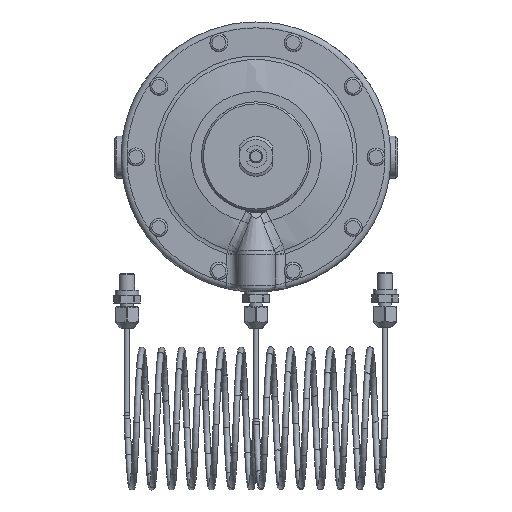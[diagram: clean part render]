
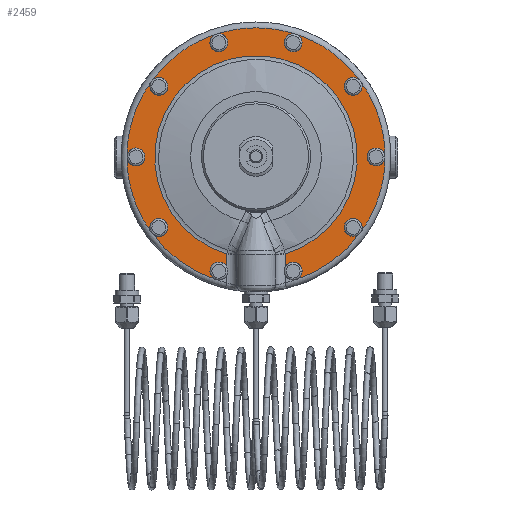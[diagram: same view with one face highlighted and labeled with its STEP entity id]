
A CAD part, top view. The second image highlights one B-rep face of the part: STEP entity #2459.
In plain terms, the highlighted planar face has unit normal (0, 0, 1).
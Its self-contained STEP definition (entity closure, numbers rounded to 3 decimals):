
#757=B_SPLINE_CURVE_WITH_KNOTS('',3,(#25070,#25071,#25072,#25073),.UNSPECIFIED.,
 .F.,.F.,(4,4),(0.,1.),.UNSPECIFIED.);
#758=B_SPLINE_CURVE_WITH_KNOTS('',3,(#25077,#25078,#25079,#25080),.UNSPECIFIED.,
 .F.,.F.,(4,4),(0.,1.),.UNSPECIFIED.);
#952=PLANE('',#12342);
#2459=ADVANCED_FACE('',(#3425),#952,.T.);
#3425=FACE_OUTER_BOUND('',#4050,.T.);
#4050=EDGE_LOOP('',(#6894,#6895,#6896,#6897,#6898,#6899,#6900,#6901,#6902,
#6903,#6904,#6905,#6906,#6907,#6908,#6909,#6910,#6911,#6912,#6913,#6914,
#6915,#6916,#6917));
#5313=CIRCLE('',#12322,65.);
#5314=CIRCLE('',#12323,4.5);
#5315=CIRCLE('',#12324,65.);
#5316=CIRCLE('',#12325,4.5);
#5317=CIRCLE('',#12326,65.);
#5318=CIRCLE('',#12327,4.5);
#5319=CIRCLE('',#12328,65.);
#5320=CIRCLE('',#12329,4.5);
#5321=CIRCLE('',#12330,65.);
#5322=CIRCLE('',#12331,4.5);
#5323=CIRCLE('',#12332,65.);
#5324=CIRCLE('',#12333,4.5);
#5325=CIRCLE('',#12334,51.024);
#5326=CIRCLE('',#12335,4.5);
#5327=CIRCLE('',#12336,65.);
#5328=CIRCLE('',#12337,4.5);
#5329=CIRCLE('',#12338,65.);
#5330=CIRCLE('',#12339,4.5);
#5331=CIRCLE('',#12340,65.);
#5332=CIRCLE('',#12341,4.5);
#6894=ORIENTED_EDGE('',*,*,#10303,.T.);
#6895=ORIENTED_EDGE('',*,*,#10304,.F.);
#6896=ORIENTED_EDGE('',*,*,#10305,.T.);
#6897=ORIENTED_EDGE('',*,*,#10306,.F.);
#6898=ORIENTED_EDGE('',*,*,#10307,.T.);
#6899=ORIENTED_EDGE('',*,*,#10308,.F.);
#6900=ORIENTED_EDGE('',*,*,#10309,.T.);
#6901=ORIENTED_EDGE('',*,*,#10310,.F.);
#6902=ORIENTED_EDGE('',*,*,#10311,.T.);
#6903=ORIENTED_EDGE('',*,*,#10312,.F.);
#6904=ORIENTED_EDGE('',*,*,#10313,.T.);
#6905=ORIENTED_EDGE('',*,*,#10314,.F.);
#6906=ORIENTED_EDGE('',*,*,#10315,.T.);
#6907=ORIENTED_EDGE('',*,*,#10316,.T.);
#6908=ORIENTED_EDGE('',*,*,#10317,.T.);
#6909=ORIENTED_EDGE('',*,*,#10318,.T.);
#6910=ORIENTED_EDGE('',*,*,#10319,.T.);
#6911=ORIENTED_EDGE('',*,*,#10320,.F.);
#6912=ORIENTED_EDGE('',*,*,#10321,.T.);
#6913=ORIENTED_EDGE('',*,*,#10322,.F.);
#6914=ORIENTED_EDGE('',*,*,#10323,.T.);
#6915=ORIENTED_EDGE('',*,*,#10324,.F.);
#6916=ORIENTED_EDGE('',*,*,#10325,.T.);
#6917=ORIENTED_EDGE('',*,*,#10326,.F.);
#9082=VERTEX_POINT('',#25049);
#9083=VERTEX_POINT('',#25050);
#9084=VERTEX_POINT('',#25053);
#9085=VERTEX_POINT('',#25056);
#9086=VERTEX_POINT('',#25059);
#9087=VERTEX_POINT('',#25062);
#9088=VERTEX_POINT('',#25065);
#9089=VERTEX_POINT('',#25067);
#9090=VERTEX_POINT('',#25069);
#9091=VERTEX_POINT('',#25074);
#9092=VERTEX_POINT('',#25076);
#9093=VERTEX_POINT('',#25081);
#9094=VERTEX_POINT('',#25083);
#9095=VERTEX_POINT('',#25085);
#9096=VERTEX_POINT('',#25087);
#9097=VERTEX_POINT('',#25090);
#10303=EDGE_CURVE('',#9082,#9083,#5313,.T.);
#10304=EDGE_CURVE('',#9083,#9083,#5314,.T.);
#10305=EDGE_CURVE('',#9083,#9084,#5315,.T.);
#10306=EDGE_CURVE('',#9084,#9084,#5316,.T.);
#10307=EDGE_CURVE('',#9084,#9085,#5317,.T.);
#10308=EDGE_CURVE('',#9085,#9085,#5318,.T.);
#10309=EDGE_CURVE('',#9085,#9086,#5319,.T.);
#10310=EDGE_CURVE('',#9086,#9086,#5320,.T.);
#10311=EDGE_CURVE('',#9086,#9087,#5321,.T.);
#10312=EDGE_CURVE('',#9087,#9087,#5322,.T.);
#10313=EDGE_CURVE('',#9087,#9088,#5323,.T.);
#10314=EDGE_CURVE('',#9089,#9088,#5324,.T.);
#10315=EDGE_CURVE('',#9089,#9090,#11303,.T.);
#10316=EDGE_CURVE('',#9090,#9091,#757,.T.);
#10317=EDGE_CURVE('',#9091,#9092,#5325,.T.);
#10318=EDGE_CURVE('',#9092,#9093,#758,.T.);
#10319=EDGE_CURVE('',#9093,#9094,#11304,.T.);
#10320=EDGE_CURVE('',#9095,#9094,#5326,.T.);
#10321=EDGE_CURVE('',#9095,#9096,#5327,.T.);
#10322=EDGE_CURVE('',#9096,#9096,#5328,.T.);
#10323=EDGE_CURVE('',#9096,#9097,#5329,.T.);
#10324=EDGE_CURVE('',#9097,#9097,#5330,.T.);
#10325=EDGE_CURVE('',#9097,#9082,#5331,.T.);
#10326=EDGE_CURVE('',#9082,#9082,#5332,.T.);
#11303=LINE('',#25068,#11600);
#11304=LINE('',#25082,#11601);
#11600=VECTOR('',#14629,1.);
#11601=VECTOR('',#14632,1.);
#12322=AXIS2_PLACEMENT_3D('',#25048,#14605,#14606);
#12323=AXIS2_PLACEMENT_3D('',#25051,#14607,#14608);
#12324=AXIS2_PLACEMENT_3D('',#25052,#14609,#14610);
#12325=AXIS2_PLACEMENT_3D('',#25054,#14611,#14612);
#12326=AXIS2_PLACEMENT_3D('',#25055,#14613,#14614);
#12327=AXIS2_PLACEMENT_3D('',#25057,#14615,#14616);
#12328=AXIS2_PLACEMENT_3D('',#25058,#14617,#14618);
#12329=AXIS2_PLACEMENT_3D('',#25060,#14619,#14620);
#12330=AXIS2_PLACEMENT_3D('',#25061,#14621,#14622);
#12331=AXIS2_PLACEMENT_3D('',#25063,#14623,#14624);
#12332=AXIS2_PLACEMENT_3D('',#25064,#14625,#14626);
#12333=AXIS2_PLACEMENT_3D('',#25066,#14627,#14628);
#12334=AXIS2_PLACEMENT_3D('',#25075,#14630,#14631);
#12335=AXIS2_PLACEMENT_3D('',#25084,#14633,#14634);
#12336=AXIS2_PLACEMENT_3D('',#25086,#14635,#14636);
#12337=AXIS2_PLACEMENT_3D('',#25088,#14637,#14638);
#12338=AXIS2_PLACEMENT_3D('',#25089,#14639,#14640);
#12339=AXIS2_PLACEMENT_3D('',#25091,#14641,#14642);
#12340=AXIS2_PLACEMENT_3D('',#25092,#14643,#14644);
#12341=AXIS2_PLACEMENT_3D('',#25093,#14645,#14646);
#12342=AXIS2_PLACEMENT_3D('',#25094,#14647,#14648);
#14605=DIRECTION('',(0.,0.,1.));
#14606=DIRECTION('',(1.,0.,0.));
#14607=DIRECTION('',(0.,0.,1.));
#14608=DIRECTION('',(0.588,0.809,0.));
#14609=DIRECTION('',(0.,0.,1.));
#14610=DIRECTION('',(1.,0.,0.));
#14611=DIRECTION('',(0.,0.,1.));
#14612=DIRECTION('',(0.,1.,0.));
#14613=DIRECTION('',(0.,0.,1.));
#14614=DIRECTION('',(1.,0.,0.));
#14615=DIRECTION('',(0.,0.,1.));
#14616=DIRECTION('',(-0.588,0.809,0.));
#14617=DIRECTION('',(0.,0.,1.));
#14618=DIRECTION('',(1.,0.,0.));
#14619=DIRECTION('',(0.,0.,1.));
#14620=DIRECTION('',(-0.951,0.309,0.));
#14621=DIRECTION('',(0.,0.,1.));
#14622=DIRECTION('',(1.,0.,0.));
#14623=DIRECTION('',(0.,0.,1.));
#14624=DIRECTION('',(-0.951,-0.309,0.));
#14625=DIRECTION('',(0.,0.,1.));
#14626=DIRECTION('',(1.,0.,0.));
#14627=DIRECTION('',(0.,0.,1.));
#14628=DIRECTION('',(-0.588,-0.809,0.));
#14629=DIRECTION('',(0.,1.,0.));
#14630=DIRECTION('',(0.,0.,-1.));
#14631=DIRECTION('',(1.,0.,0.));
#14632=DIRECTION('',(0.,-1.,0.));
#14633=DIRECTION('',(0.,0.,1.));
#14634=DIRECTION('',(0.,-1.,0.));
#14635=DIRECTION('',(0.,0.,1.));
#14636=DIRECTION('',(1.,0.,0.));
#14637=DIRECTION('',(0.,0.,1.));
#14638=DIRECTION('',(0.588,-0.809,0.));
#14639=DIRECTION('',(0.,0.,1.));
#14640=DIRECTION('',(1.,0.,0.));
#14641=DIRECTION('',(0.,0.,1.));
#14642=DIRECTION('',(0.951,-0.309,0.));
#14643=DIRECTION('',(0.,0.,1.));
#14644=DIRECTION('',(1.,0.,0.));
#14645=DIRECTION('',(0.,0.,1.));
#14646=DIRECTION('',(0.951,0.309,0.));
#14647=DIRECTION('',(0.,0.,1.));
#14648=DIRECTION('',(1.,0.,0.));
#25048=CARTESIAN_POINT('',(0.,0.,97.));
#25049=CARTESIAN_POINT('',(52.586,38.206,97.));
#25050=CARTESIAN_POINT('',(20.086,61.819,97.));
#25051=CARTESIAN_POINT('',(18.696,57.539,97.));
#25052=CARTESIAN_POINT('',(0.,0.,97.));
#25053=CARTESIAN_POINT('',(-20.086,61.819,97.));
#25054=CARTESIAN_POINT('',(-18.696,57.539,97.));
#25055=CARTESIAN_POINT('',(0.,0.,97.));
#25056=CARTESIAN_POINT('',(-52.586,38.206,97.));
#25057=CARTESIAN_POINT('',(-48.946,35.561,97.));
#25058=CARTESIAN_POINT('',(0.,0.,97.));
#25059=CARTESIAN_POINT('',(-65.,0.,97.));
#25060=CARTESIAN_POINT('',(-60.5,0.,97.));
#25061=CARTESIAN_POINT('',(0.,0.,97.));
#25062=CARTESIAN_POINT('',(-52.586,-38.206,97.));
#25063=CARTESIAN_POINT('',(-48.946,-35.561,97.));
#25064=CARTESIAN_POINT('',(0.,0.,97.));
#25065=CARTESIAN_POINT('',(-20.086,-61.819,97.));
#25066=CARTESIAN_POINT('',(-18.696,-57.539,97.));
#25067=CARTESIAN_POINT('',(-14.697,-55.475,97.));
#25068=CARTESIAN_POINT('',(-14.697,-50.075,97.));
#25069=CARTESIAN_POINT('',(-14.697,-49.039,97.));
#25070=CARTESIAN_POINT('',(-14.697,-49.039,97.));
#25071=CARTESIAN_POINT('',(-14.697,-48.98,97.));
#25072=CARTESIAN_POINT('',(-14.696,-48.921,97.));
#25073=CARTESIAN_POINT('',(-14.695,-48.862,97.));
#25074=CARTESIAN_POINT('',(-14.695,-48.862,97.));
#25075=CARTESIAN_POINT('',(0.,0.,97.));
#25076=CARTESIAN_POINT('',(14.695,-48.862,97.));
#25077=CARTESIAN_POINT('',(14.695,-48.862,97.));
#25078=CARTESIAN_POINT('',(14.696,-48.921,97.));
#25079=CARTESIAN_POINT('',(14.697,-48.98,97.));
#25080=CARTESIAN_POINT('',(14.697,-49.039,97.));
#25081=CARTESIAN_POINT('',(14.697,-49.039,97.));
#25082=CARTESIAN_POINT('',(14.697,-67.29,97.));
#25083=CARTESIAN_POINT('',(14.697,-55.475,97.));
#25084=CARTESIAN_POINT('',(18.696,-57.539,97.));
#25085=CARTESIAN_POINT('',(20.086,-61.819,97.));
#25086=CARTESIAN_POINT('',(0.,0.,97.));
#25087=CARTESIAN_POINT('',(52.586,-38.206,97.));
#25088=CARTESIAN_POINT('',(48.946,-35.561,97.));
#25089=CARTESIAN_POINT('',(0.,0.,97.));
#25090=CARTESIAN_POINT('',(65.,0.,97.));
#25091=CARTESIAN_POINT('',(60.5,0.,97.));
#25092=CARTESIAN_POINT('',(0.,0.,97.));
#25093=CARTESIAN_POINT('',(48.946,35.561,97.));
#25094=CARTESIAN_POINT('',(0.,-68.,97.));
